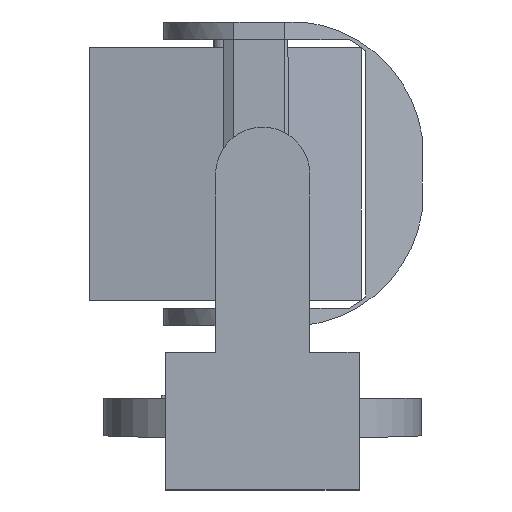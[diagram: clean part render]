
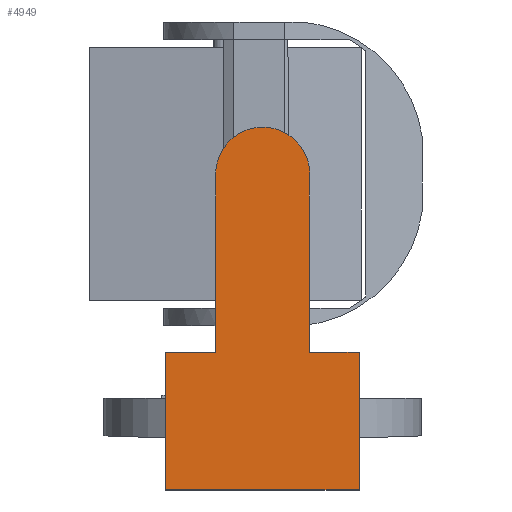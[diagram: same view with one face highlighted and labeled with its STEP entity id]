
A CAD part, left-side view. The second image highlights one B-rep face of the part: STEP entity #4949.
In plain terms, the highlighted planar face has unit normal (-1, 0, 0).
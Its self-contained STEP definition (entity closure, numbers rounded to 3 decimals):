
#262=LINE('',#7648,#799);
#263=LINE('',#7652,#800);
#264=LINE('',#7654,#801);
#265=LINE('',#7656,#802);
#266=LINE('',#7658,#803);
#267=LINE('',#7660,#804);
#268=LINE('',#7661,#805);
#799=VECTOR('',#6153,10.);
#800=VECTOR('',#6156,10.);
#801=VECTOR('',#6157,10.);
#802=VECTOR('',#6158,10.);
#803=VECTOR('',#6159,10.);
#804=VECTOR('',#6160,10.);
#805=VECTOR('',#6161,10.);
#1408=FACE_OUTER_BOUND('',#1690,.T.);
#1690=EDGE_LOOP('',(#3391,#3392,#3393,#3394,#3395,#3396,#3397,#3398));
#2020=CIRCLE('',#5579,33.349);
#2164=VERTEX_POINT('',#7646);
#2165=VERTEX_POINT('',#7647);
#2166=VERTEX_POINT('',#7649);
#2167=VERTEX_POINT('',#7651);
#2168=VERTEX_POINT('',#7653);
#2169=VERTEX_POINT('',#7655);
#2170=VERTEX_POINT('',#7657);
#2171=VERTEX_POINT('',#7659);
#2650=EDGE_CURVE('',#2164,#2165,#262,.T.);
#2651=EDGE_CURVE('',#2166,#2165,#2020,.T.);
#2652=EDGE_CURVE('',#2167,#2166,#263,.T.);
#2653=EDGE_CURVE('',#2168,#2167,#264,.T.);
#2654=EDGE_CURVE('',#2168,#2169,#265,.T.);
#2655=EDGE_CURVE('',#2170,#2169,#266,.T.);
#2656=EDGE_CURVE('',#2170,#2171,#267,.T.);
#2657=EDGE_CURVE('',#2171,#2164,#268,.T.);
#3391=ORIENTED_EDGE('',*,*,#2650,.T.);
#3392=ORIENTED_EDGE('',*,*,#2651,.F.);
#3393=ORIENTED_EDGE('',*,*,#2652,.F.);
#3394=ORIENTED_EDGE('',*,*,#2653,.F.);
#3395=ORIENTED_EDGE('',*,*,#2654,.T.);
#3396=ORIENTED_EDGE('',*,*,#2655,.F.);
#3397=ORIENTED_EDGE('',*,*,#2656,.T.);
#3398=ORIENTED_EDGE('',*,*,#2657,.T.);
#4738=PLANE('',#5578);
#4949=ADVANCED_FACE('',(#1408),#4738,.T.);
#5578=AXIS2_PLACEMENT_3D('',#7645,#6151,#6152);
#5579=AXIS2_PLACEMENT_3D('',#7650,#6154,#6155);
#6151=DIRECTION('center_axis',(-1.,0.,0.));
#6152=DIRECTION('ref_axis',(0.,0.,-1.));
#6153=DIRECTION('',(0.,0.,1.));
#6154=DIRECTION('center_axis',(1.,0.,0.));
#6155=DIRECTION('ref_axis',(0.,0.785,0.619));
#6156=DIRECTION('',(0.,0.,1.));
#6157=DIRECTION('',(0.,-1.,0.));
#6158=DIRECTION('',(0.,0.,-1.));
#6159=DIRECTION('',(0.,1.,0.));
#6160=DIRECTION('',(0.,0.,1.));
#6161=DIRECTION('',(0.,1.,0.));
#7645=CARTESIAN_POINT('Origin',(-499.5,0.,238.274));
#7646=CARTESIAN_POINT('',(-499.5,-33.098,79.));
#7647=CARTESIAN_POINT('',(-499.5,-33.098,200.921));
#7648=CARTESIAN_POINT('',(-499.5,-33.098,188.798));
#7649=CARTESIAN_POINT('',(-499.5,33.098,200.921));
#7650=CARTESIAN_POINT('Origin',(-499.5,0.,205.));
#7651=CARTESIAN_POINT('',(-499.5,33.098,79.));
#7652=CARTESIAN_POINT('',(-499.5,33.098,188.798));
#7653=CARTESIAN_POINT('',(-499.5,69.,79.));
#7654=CARTESIAN_POINT('',(-499.5,58.781,79.));
#7655=CARTESIAN_POINT('',(-499.5,69.,-18.5));
#7656=CARTESIAN_POINT('',(-499.5,69.,119.137));
#7657=CARTESIAN_POINT('',(-499.5,-68.283,-18.5));
#7658=CARTESIAN_POINT('',(-499.5,0.,-18.5));
#7659=CARTESIAN_POINT('',(-499.5,-68.283,79.));
#7660=CARTESIAN_POINT('',(-499.5,-68.283,119.137));
#7661=CARTESIAN_POINT('',(-499.5,-58.781,79.));
